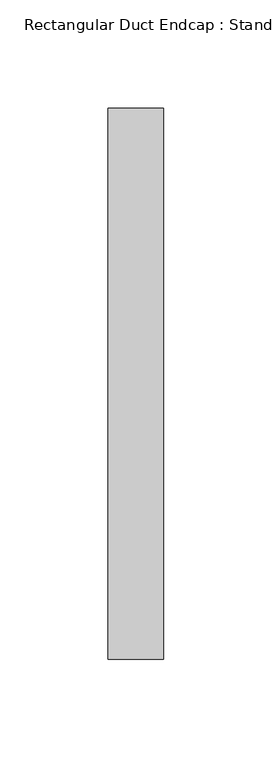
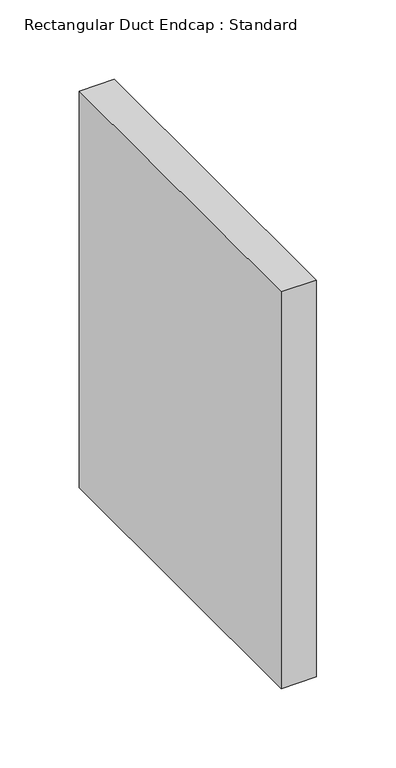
"""IFC4 building model written with IfcOpenShell, lengths in millimetres: duct fitting geometry, Rectangular Duct Endcap : Standard."""

import ifcopenshell
import ifcopenshell.guid

model = None  # the IFC model being written
_history = None  # IfcOwnerHistory: only IFC2X3 demands one
_inside = {}  # id of a spatial element -> (the spatial element, [elements in it])
_under = {}  # id of a project, library or spatial element -> (it, [spatial elements below it])
_declared = {}  # id of a project -> (the project, [libraries it declares])
_typed = {}  # id of a type object -> (the type object, [elements of that type])
_made_of = {}  # id of a material, layer set ... -> (it, [elements and type objects made of it])


def new_model(schema):
    """Start an empty IFC model of exactly this schema.

    Asked for "IFC4X3", IfcOpenShell would pick the latest addendum, in which some entities
    have other attributes; the version numbers below select the first issue.
    IFC2X3 requires an IfcOwnerHistory on every rooted entity: one is made here for all.
    """
    global model, _history
    if schema == "IFC4X3":
        model = ifcopenshell.file(schema_version=(4, 3, 0, 0))
    else:
        model = ifcopenshell.file(schema=schema)
    _inside.clear()
    _under.clear()
    _declared.clear()
    _typed.clear()
    _made_of.clear()
    _history = None
    if model.schema == "IFC2X3":
        org = make("IfcOrganization", Name="unknown")
        user = make(
            "IfcPersonAndOrganization",
            ThePerson=make("IfcPerson", FamilyName="unknown"),
            TheOrganization=org,
        )
        app = make(
            "IfcApplication",
            ApplicationDeveloper=org,
            Version="unknown",
            ApplicationFullName="unknown",
            ApplicationIdentifier="unknown",
        )
        _history = make(
            "IfcOwnerHistory",
            OwningUser=user,
            OwningApplication=app,
            ChangeAction="ADDED",
            CreationDate=0,
        )
    return model


def make(cls, **values):
    """One entity of the class cls with the attributes given. An attribute that is None is left unset."""
    return model.create_entity(
        cls, **{name: value for name, value in values.items() if value is not None}
    )


def rooted(cls, **values):
    """An entity with a GlobalId (a new one), such as an element, a storey or a relation."""
    return make(cls, GlobalId=ifcopenshell.guid.new(), OwnerHistory=_history, **values)


def si_unit(unit_type, name, prefix=None):
    """IfcSIUnit, for example si_unit("LENGTHUNIT", "METRE", prefix="MILLI")."""
    return make("IfcSIUnit", UnitType=unit_type, Prefix=prefix, Name=name)


def assignment(units):
    """IfcUnitAssignment: the units of a project."""
    return None if units is None else make("IfcUnitAssignment", Units=units)


def point(xyz):
    """IfcCartesianPoint."""
    return None if xyz is None else make("IfcCartesianPoint", Coordinates=xyz)


def direction(xyz):
    """IfcDirection."""
    return None if xyz is None else make("IfcDirection", DirectionRatios=xyz)


def frame(location, z_axis=None, x_axis=None):
    """IfcAxis2Placement3D, a coordinate frame: its origin and axes. An axis left out is left unset."""
    return make(
        "IfcAxis2Placement3D",
        Location=point(location),
        Axis=direction(z_axis),
        RefDirection=direction(x_axis),
    )


def origin():
    """The frame at (0, 0, 0) with its axes left unset."""
    return frame((0.0, 0.0, 0.0))


def place(relative_to, where):
    """IfcLocalPlacement: puts the frame where relative to a parent placement (None: the world)."""
    return make(
        "IfcLocalPlacement", PlacementRelTo=relative_to, RelativePlacement=where
    )


def context(
    kind, dimensions, precision=None, world=None, true_north=None, identifier=None
):
    """IfcGeometricRepresentationContext, for example the 3D "Model" context."""
    return make(
        "IfcGeometricRepresentationContext",
        ContextIdentifier=identifier,
        ContextType=kind,
        CoordinateSpaceDimension=dimensions,
        Precision=precision,
        WorldCoordinateSystem=world,
        TrueNorth=true_north,
    )


def project(units=None, contexts=None):
    """IfcProject with its units and contexts."""
    return rooted(
        "IfcProject",
        Name="project",
        RepresentationContexts=contexts,
        UnitsInContext=assignment(units),
    )


def spatial(cls, under=None, at=None, **own):
    """A site, building, storey or space (cls), placed at a placement, below another one or the project."""
    s = rooted(cls, ObjectPlacement=at, **own)
    if under is not None:
        _under.setdefault(under.id(), (under, []))[1].append(s)
    return s


def polyline(points):
    """IfcPolyline through the points."""
    return make("IfcPolyline", Points=[point(p) for p in points])


def outline(outer, holes=None, kind="AREA"):
    """IfcArbitraryClosedProfileDef: a profile drawn as a closed curve; with holes, ...WithVoids."""
    if holes is None:
        return make("IfcArbitraryClosedProfileDef", ProfileType=kind, OuterCurve=outer)
    return make(
        "IfcArbitraryProfileDefWithVoids",
        ProfileType=kind,
        OuterCurve=outer,
        InnerCurves=holes,
    )


def extrude(swept, where, along, depth):
    """IfcExtrudedAreaSolid: the profile swept, set in the frame where, extruded along a direction by depth."""
    return make(
        "IfcExtrudedAreaSolid",
        SweptArea=swept,
        Position=where,
        ExtrudedDirection=direction(along),
        Depth=depth,
    )


def shape(context_of_items, identifier, shape_type, items):
    """IfcShapeRepresentation: the items that make up one representation, for example the "Body"."""
    return make(
        "IfcShapeRepresentation",
        ContextOfItems=context_of_items,
        RepresentationIdentifier=identifier,
        RepresentationType=shape_type,
        Items=items,
    )


def source(mapping_origin, context_of_items, identifier, shape_type, items):
    """IfcRepresentationMap: a shape defined once, which mapped items show again and again."""
    return make(
        "IfcRepresentationMap",
        MappingOrigin=mapping_origin,
        MappedRepresentation=shape(context_of_items, identifier, shape_type, items),
    )


def transform(
    local_origin,
    x_axis=None,
    y_axis=None,
    z_axis=None,
    scale=None,
    scale2=None,
    scale3=None,
    uniform=True,
):
    """IfcCartesianTransformationOperator3D, or its non-uniform kind. x_axis, y_axis, z_axis: its Axis1, 2, 3."""
    if uniform:
        return make(
            "IfcCartesianTransformationOperator3D",
            Axis1=direction(x_axis),
            Axis2=direction(y_axis),
            LocalOrigin=point(local_origin),
            Scale=scale,
            Axis3=direction(z_axis),
        )
    return make(
        "IfcCartesianTransformationOperator3DnonUniform",
        Axis1=direction(x_axis),
        Axis2=direction(y_axis),
        LocalOrigin=point(local_origin),
        Scale=scale,
        Axis3=direction(z_axis),
        Scale2=scale2,
        Scale3=scale3,
    )


def mapped(mapping_source, mapping_target):
    """IfcMappedItem: shows the shape of a source again, moved by a transform."""
    return make(
        "IfcMappedItem", MappingSource=mapping_source, MappingTarget=mapping_target
    )


def made_of(thing, what):
    """Note that an element or type object is made of a material, layer set ...; save() writes the relation."""
    if what is not None:
        _made_of.setdefault(what.id(), (what, []))[1].append(thing)
    return thing


def element(
    cls,
    number,
    at=None,
    inside=None,
    cuts=None,
    type_object=None,
    material=None,
    context=None,
    identifier="Body",
    shape_type=None,
    held_by="IfcProductDefinitionShape",
    body=None,
    shapes=None,
    **own,
):
    """One element of the class cls, such as IfcWall. Its Tag is "e" and its number.

    at: its placement. inside: the storey or other place that contains it. cuts: it is an
    opening in that element (IfcRelVoidsElement). A single representation is given by context,
    identifier, shape_type and body (its items); several are given by shapes. held_by: the class
    of the entity that holds the representations. save() writes the other relations.
    """
    e = rooted(cls, Tag="e%d" % number, ObjectPlacement=at, **own)
    if body is not None:
        shapes = [shape(context, identifier, shape_type, body)]
    if shapes is not None:
        e.Representation = make(held_by, Representations=shapes)
    if inside is not None:
        _inside.setdefault(inside.id(), (inside, []))[1].append(e)
    if cuts is not None:
        rooted(
            "IfcRelVoidsElement", RelatingBuildingElement=cuts, RelatedOpeningElement=e
        )
    if type_object is not None:
        _typed.setdefault(type_object.id(), (type_object, []))[1].append(e)
    return made_of(e, material)


def aggregate(whole, parts):
    """IfcRelAggregates: a whole, such as a stair, and the parts it consists of."""
    return rooted("IfcRelAggregates", RelatingObject=whole, RelatedObjects=parts)


def save(model, path):
    """Write the relations noted so far, then the file.

    IfcRelAggregates (storeys below a building ...), IfcRelContainedInSpatialStructure (elements
    in a storey), IfcRelDefinesByType, IfcRelAssociatesMaterial and IfcRelDeclares: one each for
    every whole, place, type object, material and project.
    """
    for whole, parts in _under.values():
        aggregate(whole, parts)
    for where, things in _inside.values():
        rooted(
            "IfcRelContainedInSpatialStructure",
            RelatedElements=things,
            RelatingStructure=where,
        )
    for kind, things in _typed.values():
        rooted("IfcRelDefinesByType", RelatedObjects=things, RelatingType=kind)
    for what, things in _made_of.values():
        rooted("IfcRelAssociatesMaterial", RelatedObjects=things, RelatingMaterial=what)
    for by, libraries in _declared.values():
        rooted("IfcRelDeclares", RelatingContext=by, RelatedDefinitions=libraries)
    model.write(path)


def rectangular_duct_endcap_standard_df86e6dc(model_context):
    return source(origin(), model_context, "Body", "SweptSolid", [
        extrude(outline(polyline([(0.0, -127.0), (0.0, 127.0), (25.4, 127.0), (25.4, -127.0), (0.0, -127.0)])), frame((0.0, 0.0, -152.4), z_axis=(0.0, 0.0, 1.0), x_axis=(1.0, 0.0, 0.0)), (0.0, 0.0, 1.0), 304.8),
        extrude(outline(polyline([(0.0, -127.0), (0.0, 127.0), (25.4, 127.0), (25.4, -127.0), (0.0, -127.0)])), frame((0.0, 0.0, -152.4), z_axis=(0.0, 0.0, 1.0), x_axis=(1.0, 0.0, 0.0)), (0.0, 0.0, 1.0), 304.8),
        extrude(outline(polyline([(0.0, -127.0), (0.0, 127.0), (25.4, 127.0), (25.4, -127.0), (0.0, -127.0)])), frame((0.0, 0.0, -152.4), z_axis=(0.0, 0.0, 1.0), x_axis=(1.0, 0.0, 0.0)), (0.0, 0.0, 1.0), 304.8),
    ])


if __name__ == "__main__":
    model = new_model("IFC4")
    model_context = context("Model", 3, world=origin())
    ifc_project = project(units=[si_unit("LENGTHUNIT", "METRE", prefix="MILLI")], contexts=[model_context])
    site = spatial("IfcSite", under=ifc_project)
    building = spatial("IfcBuilding", under=site)
    placement = place(None, origin())
    rectangular_duct_endcap_standard_shape = rectangular_duct_endcap_standard_df86e6dc(model_context)
    element("IfcDuctFitting", 1, ObjectType="Rectangular Duct Endcap : Standard", at=placement, inside=building, context=model_context, shape_type="MappedRepresentation", body=[
        mapped(rectangular_duct_endcap_standard_shape, transform((0.0, 0.0, 0.0), x_axis=(1.0, 0.0, 0.0), y_axis=(0.0, 1.0, 0.0), z_axis=(0.0, 0.0, 1.0))),
    ])
    save(model, "model.ifc")
